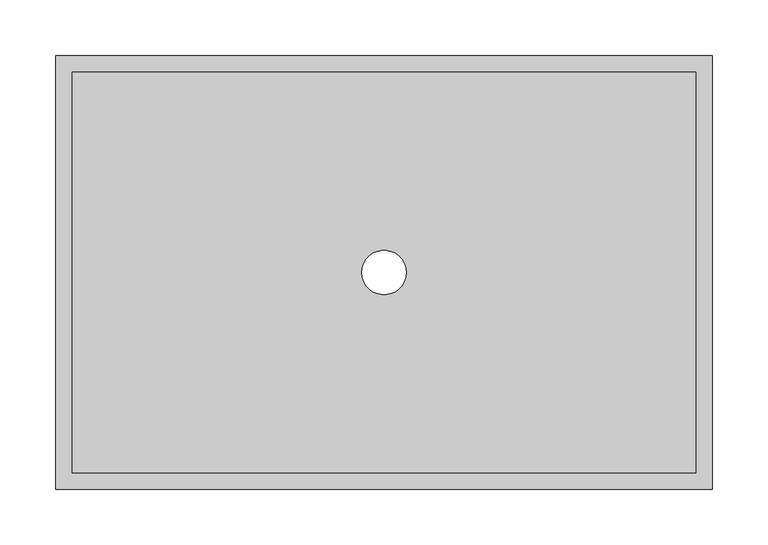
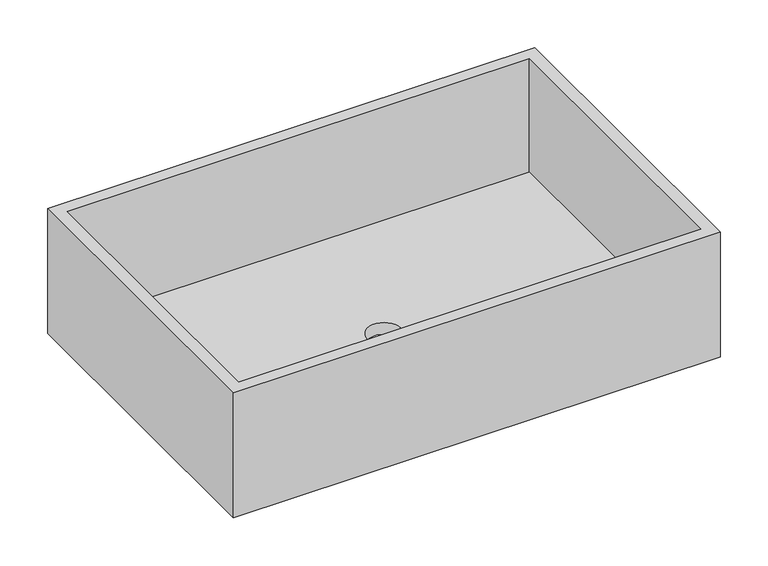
"""IFC4 building model written with IfcOpenShell, lengths in millimetres: flow terminal geometry, Lavabo Balak - Castel : Accesorios_baño."""

from ifc_helpers import new_model, si_unit, frame, origin, place, context, project, spatial, polyline, circle_curve, source, transform, mapped, element, save
from ifc_brep_helpers import plane_surface, revolved_surface, advanced_brep


def flow_terminal_7240428c(model_context):
    return source(origin(), model_context, "Body", "AdvancedBrep", [
        advanced_brep(
        [(280.0, -180.0, 765.0), (280.0, 180.0, 765.0), (-280.0, 180.0, 765.0), (-280.0, -180.0, 765.0), (-20.0, 0.0, 765.0), (20.0, 0.0, 765.0), (295.0, -195.0, 750.0), (-295.0, -195.0, 750.0), (-295.0, 195.0, 750.0), (295.0, 195.0, 750.0), (-20.0, 0.0, 750.0), (20.0, 0.0, 750.0), (295.0, -195.0, 910.0), (-295.0, -195.0, 910.0), (-295.0, 195.0, 910.0), (295.0, 195.0, 910.0), (-280.0, -180.0, 910.0), (-280.0, 180.0, 910.0), (280.0, 180.0, 910.0), (280.0, -180.0, 910.0)],
        [
            (0, 1),
            (1, 2),
            (2, 3),
            (3, 0),
            (4, 5, circle_curve(frame((0.0, 0.0, 765.0), z_axis=(0.0, 0.0, -1.0), x_axis=(1.0, 0.0, 0.0)), 20.0)),
            (5, 4, circle_curve(frame((0.0, 0.0, 765.0), z_axis=(0.0, 0.0, -1.0), x_axis=(1.0, 0.0, 0.0)), 20.0)),
            (6, 7),
            (7, 8),
            (8, 9),
            (9, 6),
            (10, 11, circle_curve(frame((0.0, 0.0, 750.0), z_axis=(0.0, 0.0, 1.0), x_axis=(1.0, 0.0, 0.0)), 20.0)),
            (11, 10, circle_curve(frame((0.0, 0.0, 750.0), z_axis=(0.0, 0.0, 1.0), x_axis=(1.0, 0.0, 0.0)), 20.0)),
            (6, 12),
            (12, 13),
            (13, 7),
            (13, 14),
            (14, 8),
            (14, 15),
            (15, 9),
            (15, 12),
            (5, 11),
            (10, 4),
            (16, 17),
            (17, 18),
            (18, 19),
            (19, 16),
            (19, 0),
            (3, 16),
            (18, 1),
            (17, 2),
        ],
        [
            plane_surface(frame((-295.0, -195.0, 765.0), z_axis=(0.0, 0.0, 1.0), x_axis=(-1.0, 0.0, 0.0))),
            plane_surface(frame((-295.0, -195.0, 750.0), z_axis=(0.0, 0.0, -1.0), x_axis=(1.0, 0.0, 0.0))),
            plane_surface(frame((295.0, -195.0, 765.0), z_axis=(0.0, -1.0, 0.0), x_axis=(0.0, 0.0, -1.0))),
            plane_surface(frame((-295.0, -195.0, 765.0), z_axis=(-1.0, 0.0, 0.0), x_axis=(0.0, 0.0, -1.0))),
            plane_surface(frame((-295.0, 195.0, 765.0), z_axis=(0.0, 1.0, 0.0), x_axis=(0.0, 0.0, -1.0))),
            plane_surface(frame((295.0, 195.0, 765.0), z_axis=(1.0, 0.0, 0.0), x_axis=(0.0, 0.0, -1.0))),
            revolved_surface(polyline([(20.0, 0.0, 750.0), (20.0, 0.0, 765.0)]), (0.0, 0.0, 0.0), (0.0, 0.0, -1.0)),
            plane_surface(frame((-295.0, -1296.250436, 910.0), z_axis=(0.0, 0.0, 1.0), x_axis=(0.0, 1.0, 0.0))),
            plane_surface(frame((-280.0, -180.0, 910.0), z_axis=(0.0, 1.0, 0.0), x_axis=(0.0, 0.0, -1.0))),
            plane_surface(frame((280.0, -180.0, 910.0), z_axis=(-1.0, 0.0, 0.0), x_axis=(0.0, 0.0, -1.0))),
            plane_surface(frame((280.0, 180.0, 910.0), z_axis=(0.0, -1.0, 0.0), x_axis=(0.0, 0.0, -1.0))),
            plane_surface(frame((-280.0, 180.0, 910.0), z_axis=(1.0, 0.0, 0.0), x_axis=(0.0, 0.0, -1.0))),
        ],
        [
            (0, [[1, 2, 3, 4], [5, 6]]),
            (1, [[7, 8, 9, 10], [11, 12]]),
            (2, [[13, 14, 15, -7]]),
            (3, [[16, 17, -8, -15]]),
            (4, [[18, 19, -9, -17]]),
            (5, [[20, -13, -10, -19]]),
            (6, [[21, -11, 22, -6]]),
            (6, [[-22, -12, -21, -5]]),
            (7, [[-14, -20, -18, -16], [23, 24, 25, 26]]),
            (8, [[27, -4, 28, -26]]),
            (9, [[29, -1, -27, -25]]),
            (10, [[30, -2, -29, -24]]),
            (11, [[-28, -3, -30, -23]]),
        ],
    ),
    ])


if __name__ == "__main__":
    model = new_model("IFC4")
    model_context = context("Model", 3, world=origin())
    ifc_project = project(units=[si_unit("LENGTHUNIT", "METRE", prefix="MILLI")], contexts=[model_context])
    site = spatial("IfcSite", under=ifc_project)
    building = spatial("IfcBuilding", under=site)
    placement = place(None, origin())
    flow_terminal_shape = flow_terminal_7240428c(model_context)
    element("IfcFlowTerminal", 1, ObjectType="Lavabo Balak - Castel : Accesorios_baño", at=placement, inside=building, context=model_context, shape_type="MappedRepresentation", body=[
        mapped(flow_terminal_shape, transform((0.0, 0.0, 0.0), x_axis=(1.0, 0.0, 0.0), y_axis=(0.0, 1.0, 0.0), z_axis=(0.0, 0.0, 1.0))),
    ])
    save(model, "model.ifc")
